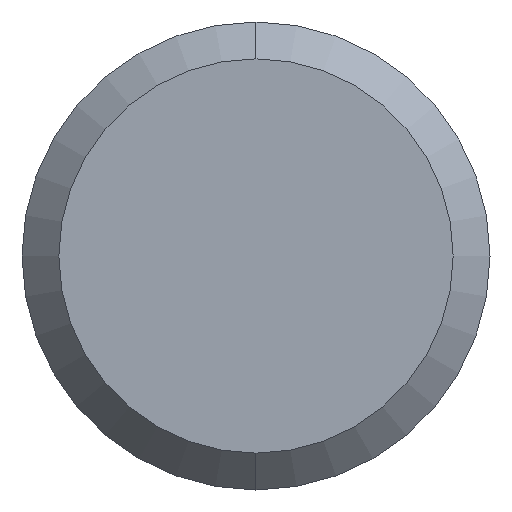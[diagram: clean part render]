
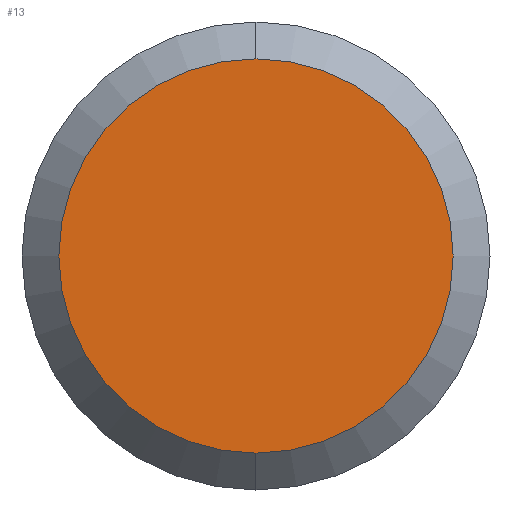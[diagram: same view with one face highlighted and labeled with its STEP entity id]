
A CAD part, left-side view. The second image highlights one B-rep face of the part: STEP entity #13.
In plain terms, the highlighted planar face has unit normal (-1, 0, 0).
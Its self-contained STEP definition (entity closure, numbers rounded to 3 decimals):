
#13 = ADVANCED_FACE ( 'NONE', ( #44 ), #217, .F. ) ;
#24 = CARTESIAN_POINT ( 'NONE',  ( -109.5, 6.35, 0. ) ) ;
#44 = FACE_OUTER_BOUND ( 'NONE', #383, .T. ) ;
#52 = DIRECTION ( 'NONE',  ( -1., 0., 0. ) ) ;
#77 = AXIS2_PLACEMENT_3D ( 'NONE', #370, #52, #342 ) ;
#107 = EDGE_CURVE ( 'NONE', #284, #291, #308, .T. ) ;
#123 = DIRECTION ( 'NONE',  ( 0., 0., -1. ) ) ;
#130 = DIRECTION ( 'NONE',  ( -1., 0., 0. ) ) ;
#135 = AXIS2_PLACEMENT_3D ( 'NONE', #231, #130, #123 ) ;
#200 = CARTESIAN_POINT ( 'NONE',  ( -109.5, 0., 5.35 ) ) ;
#202 = DIRECTION ( 'NONE',  ( 0., 0., -1. ) ) ;
#204 = EDGE_CURVE ( 'NONE', #291, #284, #380, .T. ) ;
#217 = PLANE ( 'NONE',  #382 ) ;
#231 = CARTESIAN_POINT ( 'NONE',  ( -109.5, 0., 0. ) ) ;
#284 = VERTEX_POINT ( 'NONE', #200 ) ;
#291 = VERTEX_POINT ( 'NONE', #349 ) ;
#300 = ORIENTED_EDGE ( 'NONE', *, *, #107, .T. ) ;
#308 = CIRCLE ( 'NONE', #77, 5.35 ) ;
#321 = DIRECTION ( 'NONE',  ( 1., 0., 0. ) ) ;
#342 = DIRECTION ( 'NONE',  ( 0., 0., -1. ) ) ;
#349 = CARTESIAN_POINT ( 'NONE',  ( -109.5, 0., -5.35 ) ) ;
#370 = CARTESIAN_POINT ( 'NONE',  ( -109.5, 0., 0. ) ) ;
#380 = CIRCLE ( 'NONE', #135, 5.35 ) ;
#382 = AXIS2_PLACEMENT_3D ( 'NONE', #24, #321, #202 ) ;
#383 = EDGE_LOOP ( 'NONE', ( #409, #300 ) ) ;
#409 = ORIENTED_EDGE ( 'NONE', *, *, #204, .T. ) ;
